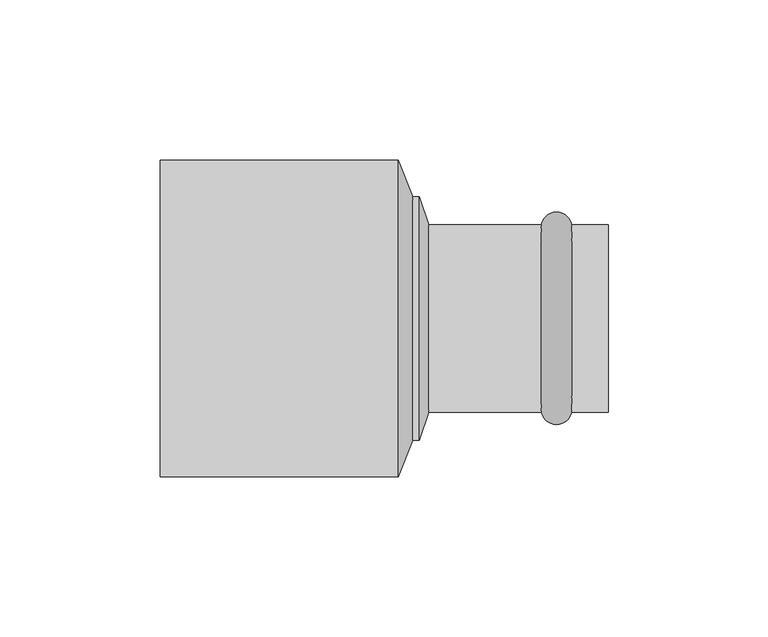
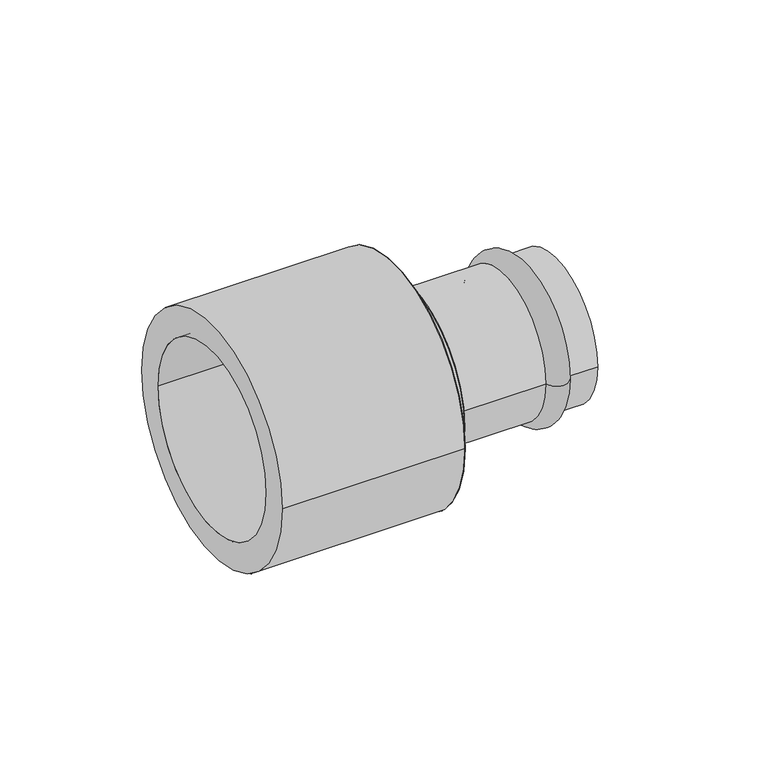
"""IFC4 building model written with IfcOpenShell, lengths in millimetres: pipe fitting geometry, VALTEC_VTi.905.I_Вставка переходная_Нержавеющая сталь : VTi.905.I."""

from ifc_helpers import new_model, si_unit, point, frame, origin, origin_2d, place, context, project, spatial, polyline, circle_curve, ellipse_curve, trimmed, segment, composite_curve, outline, extrude, source, transform, mapped, element, save
from ifc_brep_helpers import plane_surface, cylinder_surface, revolved_surface, advanced_brep


def pipe_fitting_45c77f52(model_context):
    return source(origin(), model_context, "Body", "SolidModel", [
        advanced_brep(
        [(58.6148701, -29.3, 0.0), (49.1851299, -29.3, 0.0), (49.1851299, 29.3, 0.0), (58.6148701, 29.3, 0.0), (70.0, -29.3, 0.0), (70.0, 29.3, 0.0), (70.0, -27.0, 0.0), (70.0, 27.0, 0.0), (14.0, -27.0, 0.0), (14.0, 27.0, 0.0), (14.0, -29.3, 0.0), (14.0, 29.3, 0.0)],
        [
            (0, 1, circle_curve(frame((53.9, -28.4, 0.0), z_axis=(0.0, 0.0, -1.0), x_axis=(-1.0, 0.0, 0.0)), 4.8)),
            (1, 2, circle_curve(frame((49.1851299, 0.0, 0.0), z_axis=(1.0, 0.0, 0.0), x_axis=(0.0, 1.0, 0.0)), 29.3)),
            (2, 3, circle_curve(frame((53.9, 28.4, 0.0), z_axis=(0.0, 0.0, -1.0), x_axis=(-1.0, 0.0, 0.0)), 4.8)),
            (3, 0, circle_curve(frame((58.6148701, 0.0, 0.0), z_axis=(-1.0, 0.0, 0.0), x_axis=(0.0, 1.0, 0.0)), 29.3)),
            (2, 1, circle_curve(frame((49.1851299, 0.0, 0.0), z_axis=(1.0, 0.0, 0.0), x_axis=(0.0, 1.0, 0.0)), 29.3)),
            (0, 3, circle_curve(frame((58.6148701, 0.0, 0.0), z_axis=(-1.0, 0.0, 0.0), x_axis=(0.0, 1.0, 0.0)), 29.3)),
            (4, 0),
            (3, 5),
            (5, 4, circle_curve(frame((70.0, 0.0, 0.0), z_axis=(-1.0, 0.0, 0.0), x_axis=(0.0, 1.0, 0.0)), 29.3)),
            (4, 5, circle_curve(frame((70.0, 0.0, 0.0), z_axis=(-1.0, 0.0, 0.0), x_axis=(0.0, 1.0, 0.0)), 29.3)),
            (6, 4),
            (5, 7),
            (7, 6, circle_curve(frame((70.0, 0.0, 0.0), z_axis=(-1.0, 0.0, 0.0), x_axis=(0.0, 1.0, 0.0)), 27.0)),
            (6, 7, circle_curve(frame((70.0, 0.0, 0.0), z_axis=(-1.0, 0.0, 0.0), x_axis=(0.0, 1.0, 0.0)), 27.0)),
            (8, 6),
            (7, 9),
            (9, 8, circle_curve(frame((14.0, 0.0, 0.0), z_axis=(-1.0, 0.0, 0.0), x_axis=(0.0, 1.0, 0.0)), 27.0)),
            (8, 9, circle_curve(frame((14.0, 0.0, 0.0), z_axis=(-1.0, 0.0, 0.0), x_axis=(0.0, 1.0, 0.0)), 27.0)),
            (10, 8),
            (9, 11),
            (11, 10, circle_curve(frame((14.0, 0.0, 0.0), z_axis=(-1.0, 0.0, 0.0), x_axis=(0.0, 1.0, 0.0)), 29.3)),
            (10, 11, circle_curve(frame((14.0, 0.0, 0.0), z_axis=(-1.0, 0.0, 0.0), x_axis=(0.0, 1.0, 0.0)), 29.3)),
            (1, 10),
            (11, 2),
        ],
        [
            revolved_surface(trimmed(ellipse_curve(frame((53.9, 28.4, 0.0), z_axis=(0.0, 0.0, -1.0), x_axis=(-1.0, 0.0, 0.0)), 4.8, 4.8), [point((49.1851299, 29.3, 0.0))], [point((58.6148701, 29.3, 0.0))], True, "CARTESIAN"), (73.5364426, 0.0, 0.0), (1.0, 0.0, 0.0)),
            cylinder_surface(frame((73.5364426, 0.0, 0.0), z_axis=(1.0, 0.0, 0.0), x_axis=(0.0, 1.0, 0.0)), 29.3),
            plane_surface(frame((70.0, 0.0, 0.0), z_axis=(1.0, 0.0, 0.0), x_axis=(0.0, 1.0, 0.0))),
            revolved_surface(polyline([(70.0, 27.0, 0.0), (14.0, 27.0, 0.0)]), (73.5364426, 0.0, 0.0), (1.0, 0.0, 0.0)),
            plane_surface(frame((14.0, 0.0, 0.0), z_axis=(-1.0, 0.0, 0.0), x_axis=(0.0, 1.0, 0.0))),
        ],
        [
            (0, [[1, 2, 3, 4]]),
            (0, [[-3, 5, -1, 6]]),
            (1, [[7, -4, 8, 9]]),
            (1, [[-8, -6, -7, 10]]),
            (2, [[11, -9, 12, 13]]),
            (2, [[-12, -10, -11, 14]]),
            (3, [[15, -13, 16, 17]]),
            (3, [[-16, -14, -15, 18]]),
            (4, [[19, -17, 20, 21]]),
            (4, [[-20, -18, -19, 22]]),
            (1, [[23, -21, 24, -2]]),
            (1, [[-24, -22, -23, -5]]),
        ],
    ),
        advanced_brep(
        [(11.0, -38.05, 0.0), (11.0, 38.05, 0.0), (14.0, -29.3, 0.0), (14.0, 29.3, 0.0)],
        [
            (0, 1, circle_curve(frame((11.0, 0.0, 0.0), z_axis=(-1.0, 0.0, 0.0), x_axis=(0.0, -1.0, 0.0)), 38.05)),
            (1, 0, circle_curve(frame((11.0, 0.0, 0.0), z_axis=(-1.0, 0.0, 0.0), x_axis=(0.0, 1.0, 0.0)), 38.05)),
            (2, 3, circle_curve(frame((14.0, 0.0, 0.0), z_axis=(1.0, 0.0, 0.0), x_axis=(0.0, 1.0, 0.0)), 29.3)),
            (3, 2, circle_curve(frame((14.0, 0.0, 0.0), z_axis=(1.0, 0.0, 0.0), x_axis=(0.0, -1.0, 0.0)), 29.3)),
            (2, 0),
            (1, 3),
        ],
        [
            plane_surface(frame((11.0, 0.0, 0.0), z_axis=(-1.0, 0.0, 0.0), x_axis=(0.0, 0.0, 1.0))),
            plane_surface(frame((14.0, 0.0, 0.0), z_axis=(1.0, 0.0, 0.0), x_axis=(0.0, 0.0, 1.0))),
            revolved_surface(polyline([(14.0, -29.300000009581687, 0.0), (11.0, -38.05, 0.0)]), (24.0457143, 0.0, 0.0), (-1.0, 0.0, 0.0)),
            revolved_surface(polyline([(14.0, 29.300000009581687, 0.0), (11.0, 38.05, 0.0)]), (24.0457143, 0.0, 0.0), (-1.0, 0.0, 0.0)),
        ],
        [
            (0, [[1, 2]]),
            (1, [[3, 4]]),
            (2, [[-3, 5, -2, 6]]),
            (3, [[-4, -6, -1, -5]]),
        ],
    ),
        extrude(outline(composite_curve([segment(trimmed(circle_curve(origin_2d(), 38.05), [point((-38.05, 0.0))], [point((38.05, 0.0))], False, "CARTESIAN"), True, "CONTINUOUS"), segment(trimmed(circle_curve(origin_2d(), 38.05), [point((38.05, 0.0))], [point((-38.05, 0.0))], False, "CARTESIAN"), True, "CONTINUOUS")], self_intersect=False)), frame((9.0, 0.0, 0.0), z_axis=(1.0, 0.0, 0.0), x_axis=(0.0, 1.0, 0.0)), (0.0, 0.0, 1.0), 2.0),
        advanced_brep(
        [(9.0, -38.05, 0.0), (9.0, 38.05, 0.0), (4.5, -49.465, 0.0), (4.5, 49.465, 0.0)],
        [
            (0, 1, circle_curve(frame((9.0, 0.0, 0.0), z_axis=(1.0, 0.0, 0.0), x_axis=(0.0, -1.0, 0.0)), 38.05)),
            (1, 0, circle_curve(frame((9.0, 0.0, 0.0), z_axis=(1.0, 0.0, 0.0), x_axis=(0.0, 1.0, 0.0)), 38.05)),
            (2, 3, circle_curve(frame((4.5, 0.0, 0.0), z_axis=(-1.0, 0.0, 0.0), x_axis=(0.0, 1.0, 0.0)), 49.465)),
            (3, 2, circle_curve(frame((4.5, 0.0, 0.0), z_axis=(-1.0, 0.0, 0.0), x_axis=(0.0, -1.0, 0.0)), 49.465)),
            (3, 1),
            (0, 2),
        ],
        [
            plane_surface(frame((9.0, 0.0, 0.0), z_axis=(1.0, 0.0, 0.0), x_axis=(0.0, 0.0, -1.0))),
            plane_surface(frame((4.5, 0.0, 0.0), z_axis=(-1.0, 0.0, 0.0), x_axis=(0.0, 0.0, -1.0))),
            revolved_surface(polyline([(9.0, -38.050000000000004, 0.0), (4.5, -49.465, 0.0)]), (24.0, 0.0, 0.0), (-1.0, 0.0, 0.0)),
            revolved_surface(polyline([(9.0, 38.050000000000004, 0.0), (4.5, 49.465, 0.0)]), (24.0, 0.0, 0.0), (-1.0, 0.0, 0.0)),
        ],
        [
            (0, [[1, 2]]),
            (1, [[3, 4]]),
            (2, [[-4, 5, -1, 6]]),
            (3, [[-3, -6, -2, -5]]),
        ],
    ),
        extrude(outline(composite_curve([segment(trimmed(circle_curve(origin_2d(), 49.465), [point((-49.465, 0.0))], [point((49.465, 0.0))], False, "CARTESIAN"), True, "CONTINUOUS"), segment(trimmed(circle_curve(origin_2d(), 49.465), [point((49.465, 0.0))], [point((-49.465, 0.0))], False, "CARTESIAN"), True, "CONTINUOUS")], self_intersect=False), holes=[composite_curve([segment(trimmed(circle_curve(origin_2d(), 38.05), [point((-38.05, 0.0))], [point((38.05, 0.0))], True, "CARTESIAN"), True, "CONTINUOUS"), segment(trimmed(circle_curve(origin_2d(), 38.05), [point((38.05, 0.0))], [point((-38.05, 0.0))], True, "CARTESIAN"), True, "CONTINUOUS")], self_intersect=False)]), frame((-70.0, 0.0, 0.0), z_axis=(1.0, 0.0, 0.0), x_axis=(0.0, 1.0, 0.0)), (0.0, 0.0, 1.0), 74.5),
    ])


if __name__ == "__main__":
    model = new_model("IFC4")
    model_context = context("Model", 3, world=origin())
    ifc_project = project(units=[si_unit("LENGTHUNIT", "METRE", prefix="MILLI")], contexts=[model_context])
    site = spatial("IfcSite", under=ifc_project)
    building = spatial("IfcBuilding", under=site)
    placement = place(None, origin())
    pipe_fitting_shape = pipe_fitting_45c77f52(model_context)
    element("IfcPipeFitting", 1, ObjectType="VALTEC_VTi.905.I_Вставка переходная_Нержавеющая сталь : VTi.905.I", at=placement, inside=building, context=model_context, shape_type="MappedRepresentation", body=[
        mapped(pipe_fitting_shape, transform((0.0, 0.0, 0.0), x_axis=(1.0, 0.0, 0.0), y_axis=(0.0, 1.0, 0.0), z_axis=(0.0, 0.0, 1.0))),
    ])
    save(model, "model.ifc")
